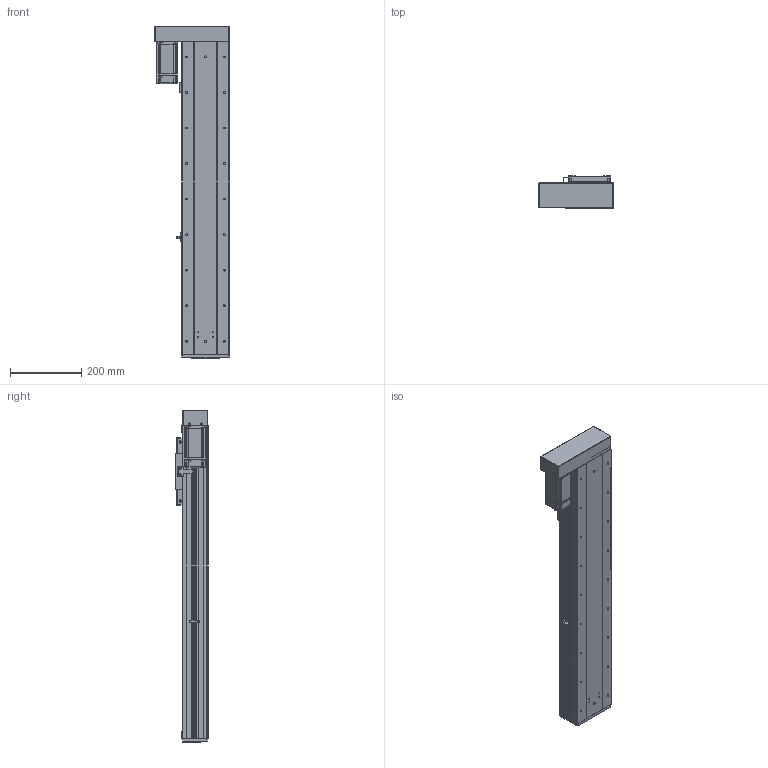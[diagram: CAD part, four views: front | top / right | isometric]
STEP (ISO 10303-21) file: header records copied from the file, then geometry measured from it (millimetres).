
FILE_DESCRIPTION (( 'STEP AP203' ), '1' );
FILE_NAME ('RY140F-L2020-300-LK.SLDASM_600.step', '2021-03-02T08:37:14', ( '盈信电脑' ), ( '东莞市道滘镇水果街19号' ), 'SwSTEP 2.0', 'SolidWorks 2012', '' );
FILE_SCHEMA (( 'CONFIG_CONTROL_DESIGN' ));
Products named in the file (19): RY140F-L2020-300-LK.SLDASM_600; RY140F-左右折电机安装板(400W M5); RY140F-酘衵殏萇儂欶(400W); 侐源滅袉蝶; RY140F-转折折电机座（7001）; RY140F-詩湍揤え; RY140F-672覜茼んえ; 覜茼ん672; RY140F-直连型材铝滑块(16丝杆); 15; 侂狟400W侜督萇儂; RY140F-后盖板(铝件）; RY140F-直连型材铝滑块连接座; RY140F-滅鳥奻裔; RY100F-詩湍揤踡謫; RY140F-詩湍幗謫粣; RY140F-300-LK蛌殏詩湍_600; RY140F-300-LK倰第菁釱_600; RY140F-300-LK倰第奻裔啣_600
Assembly tree (23 placements, depth 3):
  RY140F-L2020-300-LK.SLDASM_600
    RY140F-300-LK倰第菁釱_600
    RY140F-300-LK倰第奻裔啣_600  x2
    RY140F-300-LK蛌殏詩湍_600
    RY140F-直连型材铝滑块连接座
    RY140F-滅鳥奻裔
    RY140F-詩湍幗謫粣
    RY100F-詩湍揤踡謫
    RY140F-直连型材铝滑块(16丝杆)
    RY140F-后盖板(铝件）
    侂狟400W侜督萇儂
      15
    覜茼ん672
    RY140F-672覜茼んえ
    RY140F-詩湍揤え  x2
    侐源滅袉蝶  x4
    RY140F-转折折电机座（7001）
    RY140F-左右折电机安装板(400W M5)
    RY140F-酘衵殏萇儂欶(400W)
Bounding box: 211 x 91 x 934 mm (x, y, z)
Volume: 3795579 mm3; surface area: 1350662.3 mm2
Topology: 22 solids, 22 shells, 2033 faces, 5545 edges, 3518 vertices
Faces by surface type: cylinder 988, plane 789, cone 226, bspline 26, torus 4
Entity records: 64183 total; most frequent: CARTESIAN_POINT 13575, DIRECTION 10282, ORIENTED_EDGE 9978, EDGE_CURVE 4989, AXIS2_PLACEMENT_3D 3689, VERTEX_POINT 3258, VECTOR 2904, LINE 2904
